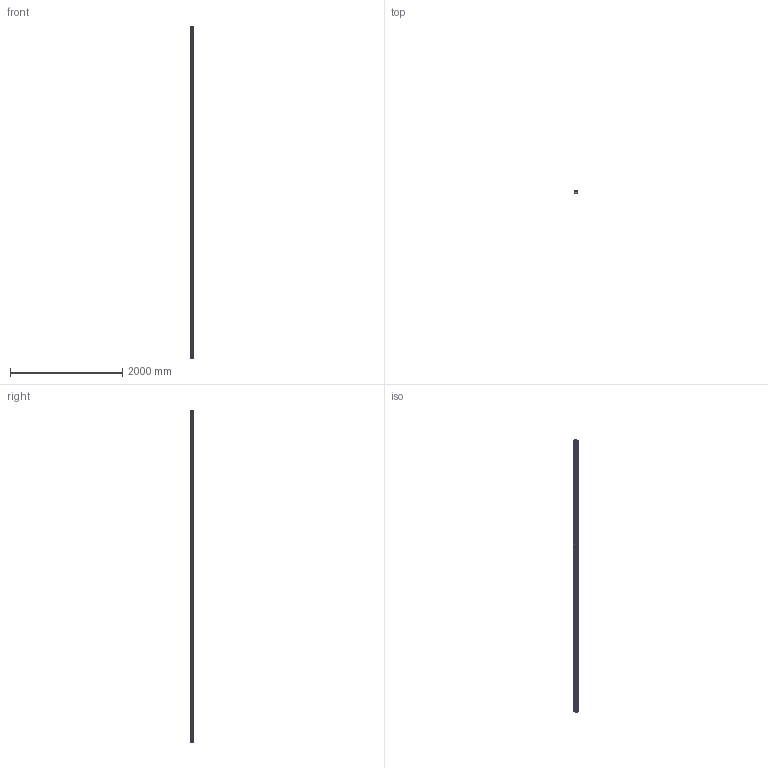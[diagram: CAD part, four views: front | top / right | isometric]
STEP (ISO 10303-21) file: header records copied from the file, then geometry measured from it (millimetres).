
FILE_DESCRIPTION((''),'2;1');
FILE_NAME('ROLLENSCHIENE_C','2021-12-23T05:33:27',('ac91sw'),(''),'CREO PARAMETRIC BY PTC INC, 2020044','CREO PARAMETRIC BY PTC INC, 2020044','');
FILE_SCHEMA(('AUTOMOTIVE_DESIGN { 1 0 10303 214 1 1 1 1 }'));
Length unit declared in the file: millimetre
Products named in the file (3): ROLLENSCHIENE_C_SKEL; ROLLENSCHIENE_C_RAIL1; ROLLENSCHIENE_C
Assembly tree (2 placements, depth 2):
  ROLLENSCHIENE_C
    ROLLENSCHIENE_C_SKEL
    ROLLENSCHIENE_C_RAIL1
Bounding box: 63 x 57.85 x 5921 mm (x, y, z)
Volume: 15040743.4 mm3; surface area: 1743747.4 mm2
Topology: 1 solids, 1 shells, 463 faces, 1264 edges, 1115 vertices
Faces by surface type: cylinder 320, plane 139, cone 4
Entity records: 15814 total; most frequent: DIRECTION 2884, CARTESIAN_POINT 2555, ORIENTED_EDGE 2204, AXIS2_PLACEMENT_3D 1132, EDGE_CURVE 1102, VERTEX_POINT 722, EDGE_LOOP 702, CIRCLE 640
